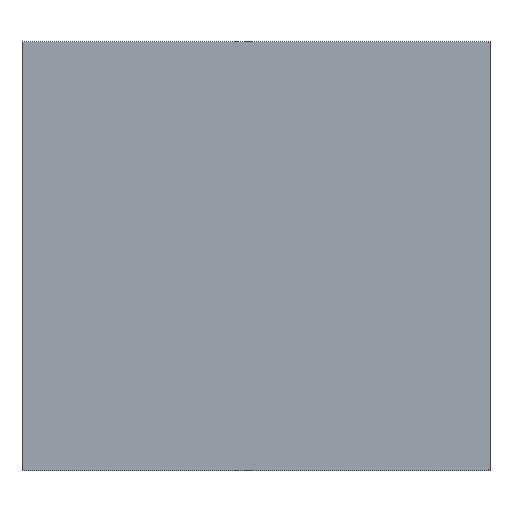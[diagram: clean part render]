
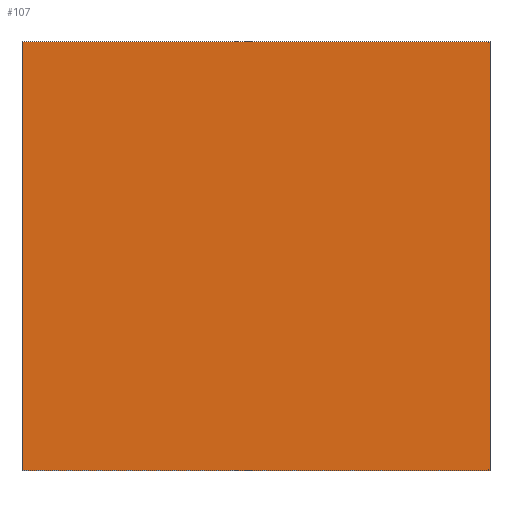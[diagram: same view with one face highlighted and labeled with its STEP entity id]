
A CAD part, left-side view. The second image highlights one B-rep face of the part: STEP entity #107.
In plain terms, the highlighted planar face has unit normal (-1, 0, 0).
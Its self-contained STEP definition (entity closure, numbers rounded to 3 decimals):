
#68=DIRECTION('',(0.,0.,-1.));
#69=VECTOR('',#68,440.);
#70=CARTESIAN_POINT('',(-854.75,-240.,219.));
#71=LINE('',#70,#69);
#72=DIRECTION('',(0.,1.,0.));
#73=VECTOR('',#72,480.);
#74=CARTESIAN_POINT('',(-854.75,-240.,-221.));
#75=LINE('',#74,#73);
#76=DIRECTION('',(0.,0.,1.));
#77=VECTOR('',#76,440.);
#78=CARTESIAN_POINT('',(-854.75,240.,-221.));
#79=LINE('',#78,#77);
#80=DIRECTION('',(0.,-1.,0.));
#81=VECTOR('',#80,480.);
#82=CARTESIAN_POINT('',(-854.75,240.,219.));
#83=LINE('',#82,#81);
#84=CARTESIAN_POINT('',(-854.75,-240.,-221.));
#85=CARTESIAN_POINT('',(-854.75,-240.,219.));
#86=VERTEX_POINT('',#84);
#87=VERTEX_POINT('',#85);
#88=CARTESIAN_POINT('',(-854.75,240.,219.));
#89=VERTEX_POINT('',#88);
#90=CARTESIAN_POINT('',(-854.75,240.,-221.));
#91=VERTEX_POINT('',#90);
#92=CARTESIAN_POINT('',(-854.75,0.,0.));
#93=DIRECTION('',(-1.,0.,0.));
#94=DIRECTION('',(0.,1.,0.));
#95=AXIS2_PLACEMENT_3D('',#92,#93,#94);
#96=PLANE('',#95);
#98=ORIENTED_EDGE('',*,*,#97,.T.);
#100=ORIENTED_EDGE('',*,*,#99,.T.);
#102=ORIENTED_EDGE('',*,*,#101,.T.);
#104=ORIENTED_EDGE('',*,*,#103,.T.);
#105=EDGE_LOOP('',(#98,#100,#102,#104));
#106=FACE_OUTER_BOUND('',#105,.F.);
#97=EDGE_CURVE('',#87,#86,#71,.T.);
#99=EDGE_CURVE('',#86,#91,#75,.T.);
#101=EDGE_CURVE('',#91,#89,#79,.T.);
#103=EDGE_CURVE('',#89,#87,#83,.T.);
#107=ADVANCED_FACE('',(#106),#96,.T.);
